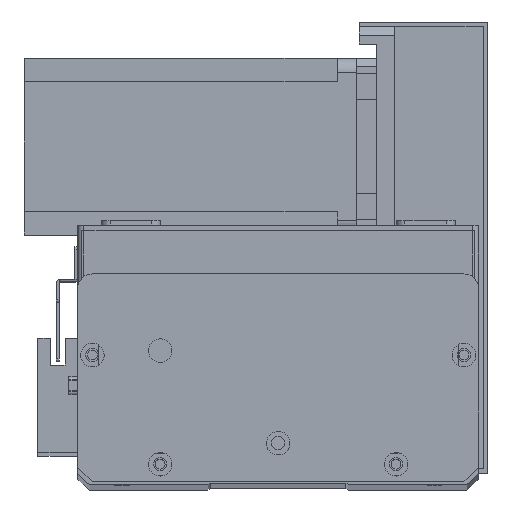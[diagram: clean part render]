
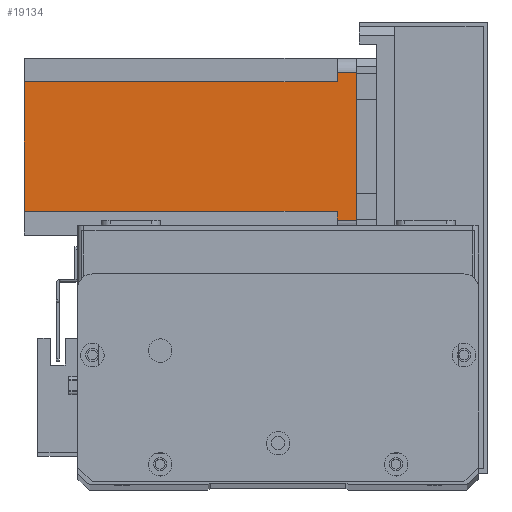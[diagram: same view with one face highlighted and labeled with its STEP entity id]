
A CAD part, top view. The second image highlights one B-rep face of the part: STEP entity #19134.
In plain terms, the highlighted planar face has unit normal (0, 0, 1) as drawn and (0, 1, 0) by its records, which use the part's own axes.
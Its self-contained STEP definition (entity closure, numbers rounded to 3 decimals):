
#355 = DIRECTION ( 'NONE',  ( 0., 0., 1. ) ) ;
#481 = VERTEX_POINT ( 'NONE', #5979 ) ;
#730 = CARTESIAN_POINT ( 'NONE',  ( 52., 60., -112.5 ) ) ;
#869 = VECTOR ( 'NONE', #16119, 1000. ) ;
#1471 = VECTOR ( 'NONE', #13053, 1000. ) ;
#1632 = VECTOR ( 'NONE', #20758, 1000. ) ;
#2173 = DIRECTION ( 'NONE',  ( -1., 0., 0. ) ) ;
#2997 = VERTEX_POINT ( 'NONE', #5378 ) ;
#3451 = VERTEX_POINT ( 'NONE', #7692 ) ;
#4438 = CARTESIAN_POINT ( 'NONE',  ( 0., 60., -112.5 ) ) ;
#4466 = LINE ( 'NONE', #13080, #21211 ) ;
#5378 = CARTESIAN_POINT ( 'NONE',  ( 8., 60., -112.5 ) ) ;
#5697 = VECTOR ( 'NONE', #355, 1000. ) ;
#5710 = EDGE_CURVE ( 'NONE', #21841, #19576, #8490, .T. ) ;
#5979 = CARTESIAN_POINT ( 'NONE',  ( 52., 60., -6.5 ) ) ;
#7102 = LINE ( 'NONE', #16435, #869 ) ;
#7203 = VERTEX_POINT ( 'NONE', #15961 ) ;
#7692 = CARTESIAN_POINT ( 'NONE',  ( 55., 60., -6.5 ) ) ;
#8490 = LINE ( 'NONE', #12949, #1471 ) ;
#9153 = ORIENTED_EDGE ( 'NONE', *, *, #12669, .T. ) ;
#10341 = EDGE_CURVE ( 'NONE', #21841, #3451, #7102, .T. ) ;
#10531 = EDGE_CURVE ( 'NONE', #481, #3451, #26048, .T. ) ;
#10788 = FACE_OUTER_BOUND ( 'NONE', #26144, .T. ) ;
#10841 = CARTESIAN_POINT ( 'NONE',  ( 5., 60., 0. ) ) ;
#11369 = EDGE_CURVE ( 'NONE', #15388, #481, #17890, .T. ) ;
#11642 = EDGE_CURVE ( 'NONE', #15388, #2997, #25426, .T. ) ;
#11799 = EDGE_CURVE ( 'NONE', #7203, #2997, #19901, .T. ) ;
#11998 = ORIENTED_EDGE ( 'NONE', *, *, #5710, .F. ) ;
#12167 = AXIS2_PLACEMENT_3D ( 'NONE', #24951, #27157, #13937 ) ;
#12191 = CARTESIAN_POINT ( 'NONE',  ( 5., 60., -6.5 ) ) ;
#12521 = EDGE_CURVE ( 'NONE', #7203, #27468, #25362, .T. ) ;
#12669 = EDGE_CURVE ( 'NONE', #27468, #19576, #4466, .T. ) ;
#12949 = CARTESIAN_POINT ( 'NONE',  ( 0., 60., 0. ) ) ;
#13053 = DIRECTION ( 'NONE',  ( -1., 0., 0. ) ) ;
#13080 = CARTESIAN_POINT ( 'NONE',  ( 5., 60., -112.5 ) ) ;
#13428 = DIRECTION ( 'NONE',  ( 0., 0., 1. ) ) ;
#13450 = DIRECTION ( 'NONE',  ( 1., 0., 0. ) ) ;
#13559 = CARTESIAN_POINT ( 'NONE',  ( 52., 60., -6.5 ) ) ;
#13937 = DIRECTION ( 'NONE',  ( 0., 0., 1. ) ) ;
#15172 = ORIENTED_EDGE ( 'NONE', *, *, #10341, .T. ) ;
#15388 = VERTEX_POINT ( 'NONE', #16604 ) ;
#15711 = VECTOR ( 'NONE', #13450, 1000. ) ;
#15961 = CARTESIAN_POINT ( 'NONE',  ( 8., 60., -6.5 ) ) ;
#16119 = DIRECTION ( 'NONE',  ( 0., 0., -1. ) ) ;
#16435 = CARTESIAN_POINT ( 'NONE',  ( 55., 60., -112.5 ) ) ;
#16604 = CARTESIAN_POINT ( 'NONE',  ( 52., 60., -112.5 ) ) ;
#16881 = ORIENTED_EDGE ( 'NONE', *, *, #11799, .F. ) ;
#17890 = LINE ( 'NONE', #730, #5697 ) ;
#17952 = ORIENTED_EDGE ( 'NONE', *, *, #10531, .F. ) ;
#18221 = VECTOR ( 'NONE', #2173, 1000. ) ;
#18394 = DIRECTION ( 'NONE',  ( -1., 0., 0. ) ) ;
#19134 = ADVANCED_FACE ( 'NONE', ( #10788 ), #22773, .T. ) ;
#19522 = VECTOR ( 'NONE', #18394, 1000. ) ;
#19576 = VERTEX_POINT ( 'NONE', #10841 ) ;
#19769 = CARTESIAN_POINT ( 'NONE',  ( 8., 60., -6.5 ) ) ;
#19901 = LINE ( 'NONE', #20729, #1632 ) ;
#20729 = CARTESIAN_POINT ( 'NONE',  ( 8., 60., -112.5 ) ) ;
#20758 = DIRECTION ( 'NONE',  ( 0., 0., -1. ) ) ;
#21211 = VECTOR ( 'NONE', #13428, 1000. ) ;
#21841 = VERTEX_POINT ( 'NONE', #23409 ) ;
#22056 = ORIENTED_EDGE ( 'NONE', *, *, #11369, .F. ) ;
#22773 = PLANE ( 'NONE',  #12167 ) ;
#23409 = CARTESIAN_POINT ( 'NONE',  ( 55., 60., 0. ) ) ;
#24951 = CARTESIAN_POINT ( 'NONE',  ( 0., 60., -112.5 ) ) ;
#25362 = LINE ( 'NONE', #19769, #19522 ) ;
#25426 = LINE ( 'NONE', #4438, #18221 ) ;
#26048 = LINE ( 'NONE', #13559, #15711 ) ;
#26144 = EDGE_LOOP ( 'NONE', ( #11998, #15172, #17952, #22056, #26917, #16881, #28196, #9153 ) ) ;
#26917 = ORIENTED_EDGE ( 'NONE', *, *, #11642, .T. ) ;
#27157 = DIRECTION ( 'NONE',  ( 0., 1., 0. ) ) ;
#27468 = VERTEX_POINT ( 'NONE', #12191 ) ;
#28196 = ORIENTED_EDGE ( 'NONE', *, *, #12521, .T. ) ;
